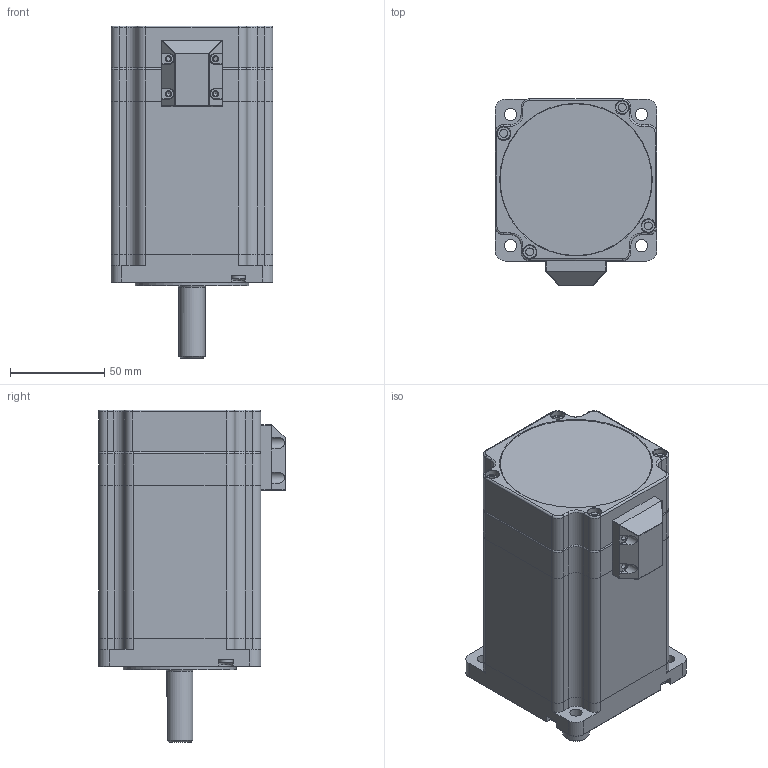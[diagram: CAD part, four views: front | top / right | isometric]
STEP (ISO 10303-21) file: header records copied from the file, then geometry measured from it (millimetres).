
FILE_DESCRIPTION (( 'STEP AP203' ), '1' );
FILE_NAME ('YK286EC118A1.STEP', '2018-11-05T00:43:56', ( '' ), ( '' ), 'SwSTEP 2.0', 'SolidWorks 2014', '' );
FILE_SCHEMA (( 'CONFIG_CONTROL_DESIGN' ));
Length unit declared in the file: millimetre
Products named in the file (18): 敕遠M4.0蹟佪; YK286EC118A1; 286萇儂萇擢揤啣; YK286ECXXA1粣郋; YK286ECXXA1隅赽; YK286ECXXA1綴裔; YK286ECXXA1ヶ裔; YK286萇儂晤鎢ん欶
Assembly tree (10 placements, depth 2):
  敕遠M4.0蹟佪
  YK286EC118A1
    YK286ECXXA1ヶ裔
    YK286ECXXA1綴裔
    YK286ECXXA1隅赽
    敕遠M4.0蹟佪  x4
    286萇儂萇擢揤啣
    YK286萇儂晤鎢ん欶
    YK286ECXXA1粣郋
  286萇儂萇擢揤啣
  敕遠M4.0蹟佪
  YK286ECXXA1粣郋
Bounding box: 85.85 x 99 x 176 mm (x, y, z)
Volume: 605007 mm3; surface area: 135360.5 mm2
Topology: 10 solids, 10 shells, 615 faces, 1476 edges, 897 vertices
Faces by surface type: plane 291, cylinder 226, torus 55, bspline 24, cone 15, sphere 4
Full cylindrical faces by diameter (mm): 2.5 x4, 3.3 x12, 4 x4, 4.2 x4, 4.5 x4, 6 x4, 6.5 x4, 7.2 x8, 14 x1, 15 x1, 16 x2, 35 x2, 55.96 x1, 60 x1, 80.5 x1
Entity records: 17612 total; most frequent: CARTESIAN_POINT 3683, DIRECTION 2618, ORIENTED_EDGE 2454, EDGE_CURVE 1227, AXIS2_PLACEMENT_3D 979, VERTEX_POINT 796, EDGE_LOOP 663, VECTOR 660
